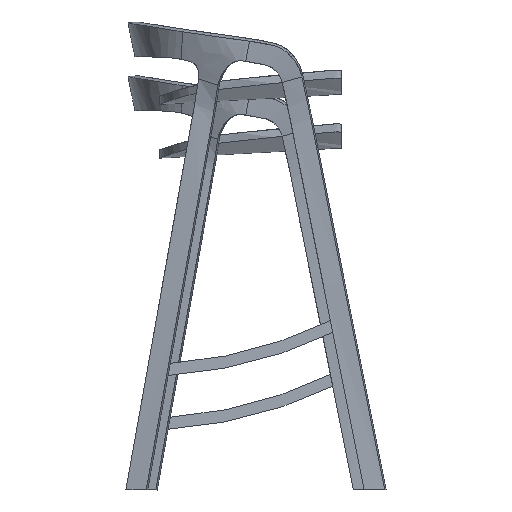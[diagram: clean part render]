
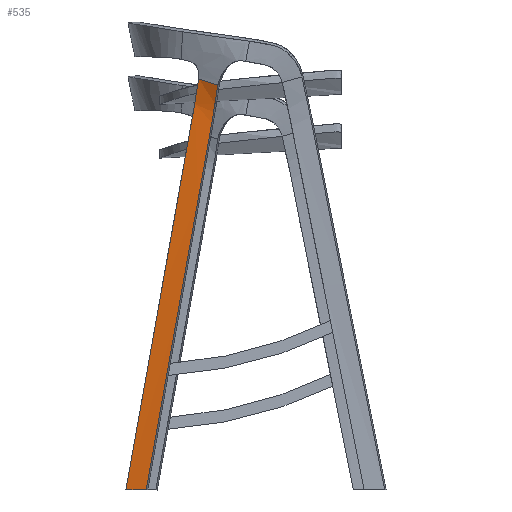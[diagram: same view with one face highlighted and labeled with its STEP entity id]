
A CAD part, left-side view. The second image highlights one B-rep face of the part: STEP entity #535.
In plain terms, the highlighted free-form (B-spline) face has degree [1, 3] with [2, 22] control points.
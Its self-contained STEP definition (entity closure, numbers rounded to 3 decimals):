
#535=ADVANCED_FACE('',(#661),#5152,.T.);
#661=FACE_OUTER_BOUND('',#787,.T.);
#787=EDGE_LOOP('',(#1282,#1283,#1284,#1285));
#1282=ORIENTED_EDGE('',*,*,#3410,.T.);
#1283=ORIENTED_EDGE('',*,*,#3411,.T.);
#1284=ORIENTED_EDGE('',*,*,#3412,.T.);
#1285=ORIENTED_EDGE('',*,*,#3413,.T.);
#1814=PCURVE('',#5152,#2346);
#1815=PCURVE('',#5152,#2347);
#1816=PCURVE('',#5152,#2348);
#1817=PCURVE('',#5152,#2349);
#2346=DEFINITIONAL_REPRESENTATION('',(#4413),#33350);
#2347=DEFINITIONAL_REPRESENTATION('',(#4415),#33350);
#2348=DEFINITIONAL_REPRESENTATION('',(#4417),#33350);
#2349=DEFINITIONAL_REPRESENTATION('',(#4419),#33350);
#2878=SURFACE_CURVE('',#4412,(#1814),.PCURVE_S1.);
#2879=SURFACE_CURVE('',#4414,(#1815),.PCURVE_S1.);
#2880=SURFACE_CURVE('',#4416,(#1816),.PCURVE_S1.);
#2881=SURFACE_CURVE('',#4418,(#1817),.PCURVE_S1.);
#3410=EDGE_CURVE('',#4999,#5000,#2878,.T.);
#3411=EDGE_CURVE('',#5000,#4998,#2879,.T.);
#3412=EDGE_CURVE('',#4998,#4997,#2880,.T.);
#3413=EDGE_CURVE('',#4997,#4999,#2881,.T.);
#4412=B_SPLINE_CURVE_WITH_KNOTS('',1,(#30138,#30139),.UNSPECIFIED.,.F.,
 .F.,(2,2),(0.,39.224),.UNSPECIFIED.);
#4413=B_SPLINE_CURVE_WITH_KNOTS('',1,(#30140,#30141),.UNSPECIFIED.,.F.,
 .F.,(2,2),(0.,39.224),.UNSPECIFIED.);
#4414=B_SPLINE_CURVE_WITH_KNOTS('',3,(#30142,#30143,#30144,#30145,#30146,
#30147,#30148,#30149,#30150,#30151,#30152,#30153),.UNSPECIFIED.,.F.,.F.,
(4,1,1,1,1,1,1,1,1,4),(0.,48.946,97.892,146.838,
195.784,293.676,391.568,489.46,587.351,
783.135),.UNSPECIFIED.);
#4415=B_SPLINE_CURVE_WITH_KNOTS('',1,(#30154,#30155),.UNSPECIFIED.,.F.,
 .F.,(2,2),(0.,783.135),.UNSPECIFIED.);
#4416=B_SPLINE_CURVE_WITH_KNOTS('',1,(#30156,#30157),.UNSPECIFIED.,.F.,
 .F.,(2,2),(-39.224,0.),.UNSPECIFIED.);
#4417=B_SPLINE_CURVE_WITH_KNOTS('',1,(#30158,#30159),.UNSPECIFIED.,.F.,
 .F.,(2,2),(-39.224,0.),.UNSPECIFIED.);
#4418=B_SPLINE_CURVE_WITH_KNOTS('',3,(#30160,#30161,#30162,#30163,#30164,
#30165,#30166,#30167,#30168,#30169,#30170,#30171,#30172,#30173,#30174,#30175,
#30176,#30177,#30178,#30179,#30180,#30181),.UNSPECIFIED.,.F.,.F.,(4,1,1,
1,1,1,1,1,1,1,1,1,1,1,1,1,1,1,1,4),(-777.668,-583.368,
-583.251,-486.14,-486.042,-388.912,
-388.834,-291.684,-291.625,-194.456,
-194.417,-145.842,-145.813,-97.228,
-97.208,-72.921,-48.614,-48.604,
-24.307,0.),.UNSPECIFIED.);
#4419=B_SPLINE_CURVE_WITH_KNOTS('',1,(#30182,#30183),.UNSPECIFIED.,.F.,
 .F.,(2,2),(-777.668,0.),.UNSPECIFIED.);
#4997=VERTEX_POINT('',#30134);
#4998=VERTEX_POINT('',#30135);
#4999=VERTEX_POINT('',#30136);
#5000=VERTEX_POINT('',#30137);
#5152=B_SPLINE_SURFACE_WITH_KNOTS('',1,3,((#30090,#30091,#30092,#30093,
#30094,#30095,#30096,#30097,#30098,#30099,#30100,#30101,#30102,#30103,#30104,
#30105,#30106,#30107,#30108,#30109,#30110,#30111),(#30112,#30113,#30114,
#30115,#30116,#30117,#30118,#30119,#30120,#30121,#30122,#30123,#30124,#30125,
#30126,#30127,#30128,#30129,#30130,#30131,#30132,#30133)),.UNSPECIFIED.,
 .F.,.F.,.F.,(2,2),(4,1,1,1,1,1,1,1,1,1,1,1,1,1,1,1,1,1,1,4),(0.,39.224),
(0.,24.307,48.604,48.614,72.921,
97.208,97.228,145.813,145.842,194.417,
194.456,291.625,291.684,388.834,388.912,
486.042,486.14,583.251,583.368,777.668),
 .UNSPECIFIED.);
#30090=CARTESIAN_POINT('',(-230.217,69.934,752.529));
#30091=CARTESIAN_POINT('',(-227.847,71.01,744.988));
#30092=CARTESIAN_POINT('',(-223.189,73.175,729.868));
#30093=CARTESIAN_POINT('',(-220.469,75.626,714.279));
#30094=CARTESIAN_POINT('',(-219.029,78.223,698.615));
#30095=CARTESIAN_POINT('',(-218.869,80.966,682.878));
#30096=CARTESIAN_POINT('',(-219.453,83.78,667.184));
#30097=CARTESIAN_POINT('',(-220.24,87.991,643.646));
#30098=CARTESIAN_POINT('',(-220.646,90.789,627.934));
#30099=CARTESIAN_POINT('',(-221.541,96.389,596.539));
#30100=CARTESIAN_POINT('',(-222.032,99.196,580.829));
#30101=CARTESIAN_POINT('',(-223.48,107.606,533.744));
#30102=CARTESIAN_POINT('',(-224.415,113.215,502.327));
#30103=CARTESIAN_POINT('',(-226.3,124.424,439.544));
#30104=CARTESIAN_POINT('',(-227.251,130.035,408.122));
#30105=CARTESIAN_POINT('',(-229.148,141.244,345.346));
#30106=CARTESIAN_POINT('',(-230.096,146.855,313.917));
#30107=CARTESIAN_POINT('',(-231.989,158.063,251.148));
#30108=CARTESIAN_POINT('',(-232.938,163.676,219.712));
#30109=CARTESIAN_POINT('',(-235.78,180.489,125.552));
#30110=CARTESIAN_POINT('',(-237.674,191.701,62.757));
#30111=CARTESIAN_POINT('',(-239.568,202.907,0.));
#30112=CARTESIAN_POINT('',(-218.772,105.353,764.9));
#30113=CARTESIAN_POINT('',(-217.02,106.54,757.088));
#30114=CARTESIAN_POINT('',(-213.948,108.982,741.338));
#30115=CARTESIAN_POINT('',(-212.152,111.585,725.431));
#30116=CARTESIAN_POINT('',(-211.197,114.279,709.503));
#30117=CARTESIAN_POINT('',(-211.083,117.064,693.556));
#30118=CARTESIAN_POINT('',(-211.736,119.932,677.594));
#30119=CARTESIAN_POINT('',(-212.603,124.218,653.672));
#30120=CARTESIAN_POINT('',(-213.033,127.06,637.729));
#30121=CARTESIAN_POINT('',(-213.891,132.74,605.856));
#30122=CARTESIAN_POINT('',(-214.32,135.584,589.897));
#30123=CARTESIAN_POINT('',(-215.607,144.107,542.071));
#30124=CARTESIAN_POINT('',(-216.465,149.793,510.166));
#30125=CARTESIAN_POINT('',(-218.181,161.156,446.406));
#30126=CARTESIAN_POINT('',(-219.04,166.844,414.492));
#30127=CARTESIAN_POINT('',(-220.756,178.206,350.736));
#30128=CARTESIAN_POINT('',(-221.615,183.894,318.817));
#30129=CARTESIAN_POINT('',(-223.33,195.255,255.068));
#30130=CARTESIAN_POINT('',(-224.189,200.945,223.142));
#30131=CARTESIAN_POINT('',(-226.762,217.987,127.511));
#30132=CARTESIAN_POINT('',(-228.478,229.353,63.737));
#30133=CARTESIAN_POINT('',(-230.193,240.711,0.));
#30134=CARTESIAN_POINT('',(-239.568,202.907,0.));
#30135=CARTESIAN_POINT('',(-230.193,240.711,0.));
#30136=CARTESIAN_POINT('',(-230.217,69.934,752.529));
#30137=CARTESIAN_POINT('',(-218.772,105.353,764.9));
#30138=CARTESIAN_POINT('',(-230.217,69.934,752.529));
#30139=CARTESIAN_POINT('',(-218.772,105.353,764.9));
#30140=CARTESIAN_POINT('',(0.,0.));
#30141=CARTESIAN_POINT('',(39.224,0.));
#30142=CARTESIAN_POINT('',(-218.772,105.353,764.9));
#30143=CARTESIAN_POINT('',(-215.267,107.727,749.28));
#30144=CARTESIAN_POINT('',(-209.993,112.747,717.516));
#30145=CARTESIAN_POINT('',(-212.173,121.378,669.612));
#30146=CARTESIAN_POINT('',(-213.462,129.897,621.811));
#30147=CARTESIAN_POINT('',(-215.177,141.264,558.027));
#30148=CARTESIAN_POINT('',(-217.323,155.47,478.313));
#30149=CARTESIAN_POINT('',(-219.897,172.518,382.649));
#30150=CARTESIAN_POINT('',(-222.471,189.567,286.987));
#30151=CARTESIAN_POINT('',(-225.903,212.298,159.437));
#30152=CARTESIAN_POINT('',(-228.477,229.346,63.775));
#30153=CARTESIAN_POINT('',(-230.193,240.711,0.));
#30154=CARTESIAN_POINT('',(39.224,0.));
#30155=CARTESIAN_POINT('',(39.224,777.668));
#30156=CARTESIAN_POINT('',(-230.193,240.711,0.));
#30157=CARTESIAN_POINT('',(-239.568,202.907,0.));
#30158=CARTESIAN_POINT('',(39.224,777.668));
#30159=CARTESIAN_POINT('',(0.,777.668));
#30160=CARTESIAN_POINT('',(-239.568,202.907,0.));
#30161=CARTESIAN_POINT('',(-237.674,191.701,62.757));
#30162=CARTESIAN_POINT('',(-235.78,180.489,125.552));
#30163=CARTESIAN_POINT('',(-232.938,163.676,219.712));
#30164=CARTESIAN_POINT('',(-231.989,158.063,251.148));
#30165=CARTESIAN_POINT('',(-230.096,146.855,313.917));
#30166=CARTESIAN_POINT('',(-229.148,141.244,345.346));
#30167=CARTESIAN_POINT('',(-227.251,130.035,408.122));
#30168=CARTESIAN_POINT('',(-226.3,124.424,439.544));
#30169=CARTESIAN_POINT('',(-224.415,113.215,502.327));
#30170=CARTESIAN_POINT('',(-223.48,107.606,533.744));
#30171=CARTESIAN_POINT('',(-222.032,99.196,580.829));
#30172=CARTESIAN_POINT('',(-221.541,96.389,596.539));
#30173=CARTESIAN_POINT('',(-220.646,90.789,627.934));
#30174=CARTESIAN_POINT('',(-220.24,87.991,643.646));
#30175=CARTESIAN_POINT('',(-219.453,83.78,667.184));
#30176=CARTESIAN_POINT('',(-218.869,80.966,682.878));
#30177=CARTESIAN_POINT('',(-219.029,78.223,698.615));
#30178=CARTESIAN_POINT('',(-220.469,75.626,714.279));
#30179=CARTESIAN_POINT('',(-223.189,73.175,729.868));
#30180=CARTESIAN_POINT('',(-227.847,71.01,744.988));
#30181=CARTESIAN_POINT('',(-230.217,69.934,752.529));
#30182=CARTESIAN_POINT('',(0.,777.668));
#30183=CARTESIAN_POINT('',(0.,0.));
#33350=(
GEOMETRIC_REPRESENTATION_CONTEXT(2)
PARAMETRIC_REPRESENTATION_CONTEXT()
REPRESENTATION_CONTEXT('pspace','')
);
